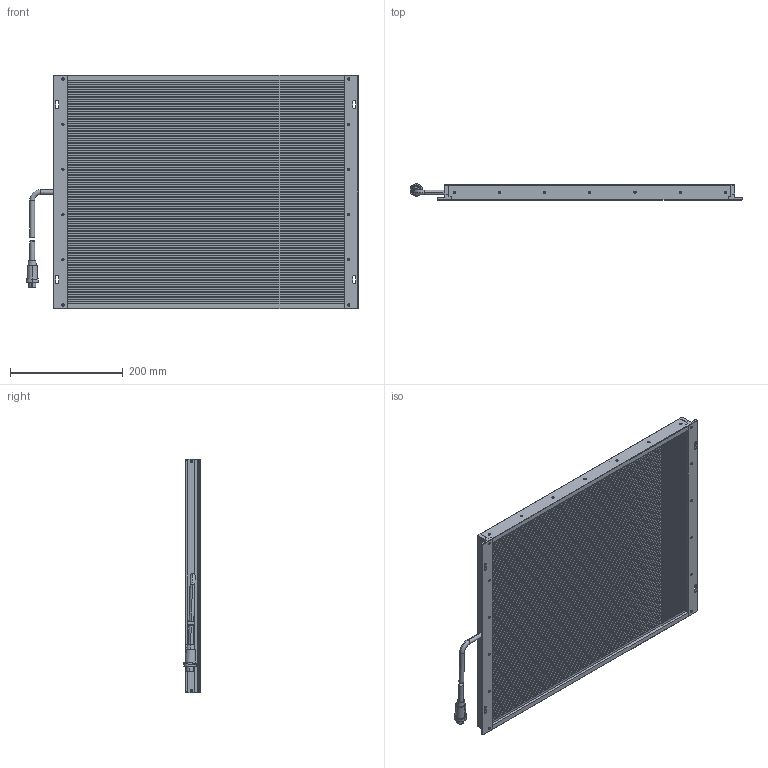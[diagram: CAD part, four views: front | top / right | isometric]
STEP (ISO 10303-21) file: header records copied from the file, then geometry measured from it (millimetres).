
FILE_DESCRIPTION((''),'2;1');
FILE_NAME('P-HFL-500-400_ASM','2021-04-08T17:48:34',('RD01'),(''),'CREO PARAMETRIC BY PTC INC, 2020053','CREO PARAMETRIC BY PTC INC, 2020053','');
FILE_SCHEMA(('CONFIG_CONTROL_DESIGN'));
Length unit declared in the file: millimetre
Products named in the file (14): SANREPIAN1; ANZHUANGBAN; CEBAN1; CEBAN3; CEBAN; MANSHEBAN; PCB; MELUOSI; SHIZICHENGTOUM2; M3; LINE_TOU; XIAN; 12M-2AXIAN_ASM; P-HFL-500-400_ASM
Assembly tree (78 placements, depth 3):
  P-HFL-500-400_ASM
    SANREPIAN1
    ANZHUANGBAN  x2
    CEBAN1  x2
    CEBAN3
    CEBAN
    MANSHEBAN
    PCB
    MELUOSI  x30
    SHIZICHENGTOUM2  x26
    M3  x10
    12M-2AXIAN_ASM
      LINE_TOU
      XIAN
Bounding box: 587.91 x 29.07 x 414 mm (x, y, z)
Volume: 3421847 mm3; surface area: 1910966.7 mm2
Topology: 77 solids, 280 shells, 2741 faces, 7330 edges, 4965 vertices
Faces by surface type: plane 1522, cylinder 923, cone 290, torus 4, extrusion 2
Entity records: 50535 total; most frequent: CARTESIAN_POINT 9218, DIRECTION 9076, ORIENTED_EDGE 7420, EDGE_CURVE 4186, AXIS2_PLACEMENT_3D 3299, VERTEX_POINT 2998, VECTOR 2478, LINE 2476
